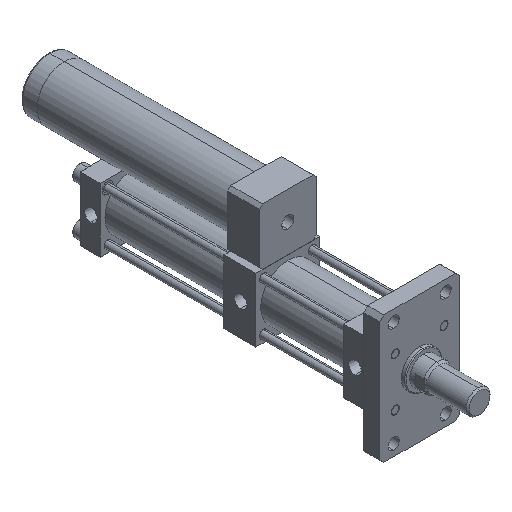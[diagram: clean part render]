
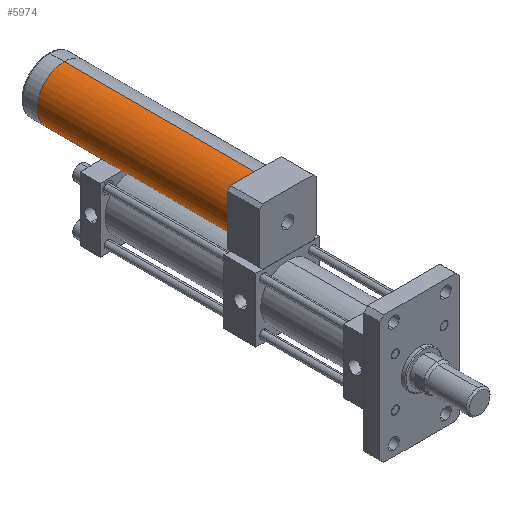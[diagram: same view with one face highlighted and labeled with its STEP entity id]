
A CAD part, isometric view. The second image highlights one B-rep face of the part: STEP entity #5974.
In plain terms, the highlighted cylindrical face has radius 34 mm (diameter 68 mm), a partial arc.
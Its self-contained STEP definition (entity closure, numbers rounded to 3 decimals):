
#29 = ORIENTED_EDGE ( 'NONE', *, *, #2690, .T. ) ;
#115 = DIRECTION ( 'NONE',  ( 0., -1., 0. ) ) ;
#364 = VECTOR ( 'NONE', #6241, 1000. ) ;
#459 = CARTESIAN_POINT ( 'NONE',  ( 0., 390., 75.5 ) ) ;
#486 = EDGE_CURVE ( 'NONE', #6787, #4770, #3566, .T. ) ;
#1007 = DIRECTION ( 'NONE',  ( 0., 0., 1. ) ) ;
#1245 = EDGE_LOOP ( 'NONE', ( #3101, #4742, #29, #2768 ) ) ;
#1297 = VERTEX_POINT ( 'NONE', #1412 ) ;
#1412 = CARTESIAN_POINT ( 'NONE',  ( 0., 390., 41.5 ) ) ;
#1696 = EDGE_CURVE ( 'NONE', #7122, #4770, #2705, .T. ) ;
#1989 = LINE ( 'NONE', #2893, #364 ) ;
#2690 = EDGE_CURVE ( 'NONE', #1297, #7122, #1989, .T. ) ;
#2705 = CIRCLE ( 'NONE', #5434, 34. ) ;
#2716 = CARTESIAN_POINT ( 'NONE',  ( 0., 150., 109.5 ) ) ;
#2768 = ORIENTED_EDGE ( 'NONE', *, *, #1696, .T. ) ;
#2893 = CARTESIAN_POINT ( 'NONE',  ( 0., 390., 41.5 ) ) ;
#2903 = CIRCLE ( 'NONE', #2943, 34. ) ;
#2908 = DIRECTION ( 'NONE',  ( 0., 0., -1. ) ) ;
#2943 = AXIS2_PLACEMENT_3D ( 'NONE', #459, #4372, #1007 ) ;
#3101 = ORIENTED_EDGE ( 'NONE', *, *, #486, .F. ) ;
#3302 = CARTESIAN_POINT ( 'NONE',  ( 0., 150., 75.5 ) ) ;
#3566 = LINE ( 'NONE', #6542, #5066 ) ;
#3873 = DIRECTION ( 'NONE',  ( 0., 0., 1. ) ) ;
#4045 = CARTESIAN_POINT ( 'NONE',  ( 0., 390., 75.5 ) ) ;
#4322 = FACE_OUTER_BOUND ( 'NONE', #1245, .T. ) ;
#4345 = DIRECTION ( 'NONE',  ( 0., -1., 0. ) ) ;
#4372 = DIRECTION ( 'NONE',  ( 0., 1., 0. ) ) ;
#4391 = CARTESIAN_POINT ( 'NONE',  ( 0., 390., 109.5 ) ) ;
#4647 = CARTESIAN_POINT ( 'NONE',  ( 0., 150., 41.5 ) ) ;
#4742 = ORIENTED_EDGE ( 'NONE', *, *, #5726, .F. ) ;
#4770 = VERTEX_POINT ( 'NONE', #2716 ) ;
#5066 = VECTOR ( 'NONE', #4345, 1000. ) ;
#5434 = AXIS2_PLACEMENT_3D ( 'NONE', #3302, #7216, #3873 ) ;
#5465 = AXIS2_PLACEMENT_3D ( 'NONE', #4045, #115, #2908 ) ;
#5726 = EDGE_CURVE ( 'NONE', #1297, #6787, #2903, .T. ) ;
#5974 = ADVANCED_FACE ( 'NONE', ( #4322 ), #6743, .T. ) ;
#6241 = DIRECTION ( 'NONE',  ( 0., -1., 0. ) ) ;
#6542 = CARTESIAN_POINT ( 'NONE',  ( 0., 390., 109.5 ) ) ;
#6743 = CYLINDRICAL_SURFACE ( 'NONE', #5465, 34. ) ;
#6787 = VERTEX_POINT ( 'NONE', #4391 ) ;
#7122 = VERTEX_POINT ( 'NONE', #4647 ) ;
#7216 = DIRECTION ( 'NONE',  ( 0., 1., 0. ) ) ;
